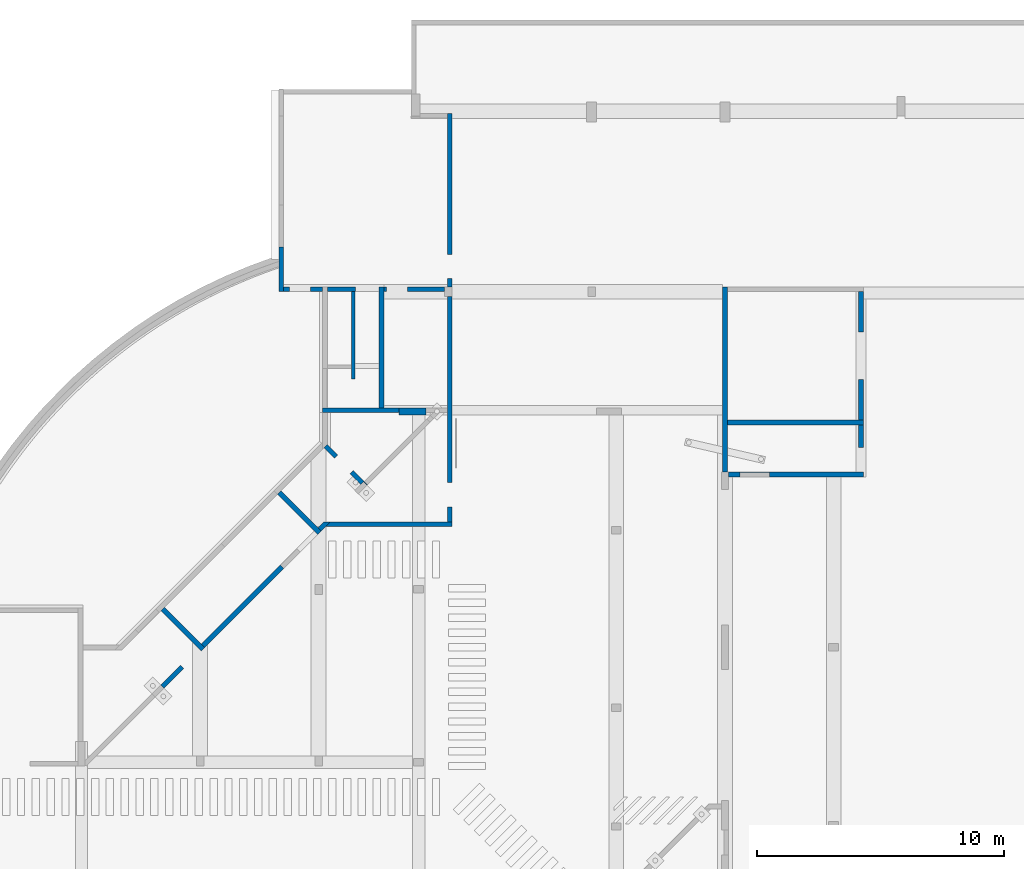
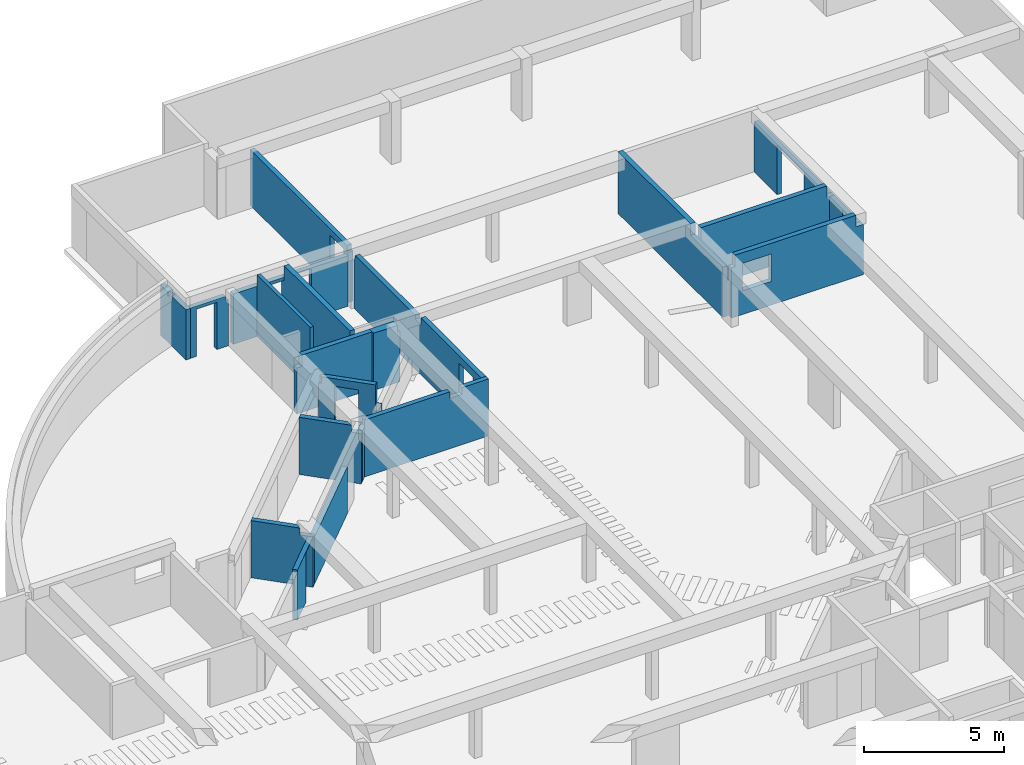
# One storey, part 11 of 12: 22 walls.
"""IFC4X3_ADD2 building model written with IfcOpenShell, lengths in millimetres."""

from ifc_helpers import new_model, si_unit, direction, frame, origin_with_axes, place, context, subcontext, project, spatial, polygons, element, save


model = new_model("IFC4X3_ADD2")

# Units and contexts
model_context = context("Model", 3, precision=1e-05, world=origin_with_axes(), true_north=direction((0.0, 1.0)))
body_context = subcontext(model_context, "Body", "Model", "MODEL_VIEW")
ifc_project = project(units=[si_unit("LENGTHUNIT", "METRE", prefix="MILLI"), si_unit("AREAUNIT", "SQUARE_METRE"), si_unit("VOLUMEUNIT", "CUBIC_METRE"), si_unit("PLANEANGLEUNIT", "RADIAN"), si_unit("TIMEUNIT", "SECOND"), si_unit("MASSUNIT", "GRAM")], contexts=[model_context])

# Site, building, storey
site_placement = place(None, origin_with_axes())
site = spatial("IfcSite", under=ifc_project, at=site_placement, Name="Site", CompositionType="ELEMENT")
building_placement = place(site_placement, origin_with_axes())
building = spatial("IfcBuilding", under=site, at=building_placement, Name="IFC Building Story")
storey_placement = place(building_placement, frame((0.0, 0.0, -5940.0), z_axis=(0.0, 0.0, 1.0), x_axis=(1.0, 0.0, 0.0)))
storey = spatial("IfcBuildingStorey", under=building, at=storey_placement, Name="K20", Elevation=-5940.0)

# Walls
wall_1_placement = place(storey_placement, frame((0.0, 0.0, 5940.0), z_axis=(0.0, 0.0, 1.0), x_axis=(1.0, 0.0, 0.0)))
element("IfcWall", 1, at=wall_1_placement, inside=storey, Name="Basic Wall:BB_XX_Wand uit beton, 200 mm", ObjectType="Basic Wall:BB_XX_Wand uit beton, 200 mm", PredefinedType="SOLIDWALL", context=body_context, shape_type="Tessellation", body=[
    polygons([(-30465.0, 43500.0, -3740.0), (-30465.0, 43500.0, -5940.0), (-30465.0, 45304.9999999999, -5940.0), (-30465.0, 45304.9999999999, -3740.0), (-30665.0, 45304.9999999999, -5940.0), (-30665.0, 43500.0, -5940.0), (-30665.0, 43500.0, -3740.0), (-30665.0, 44464.96073769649, -3740.0), (-30665.0, 44464.96073769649, -3930.0), (-30665.0, 44515.26732616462, -3930.0), (-30665.0, 44726.14031068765, -3930.0), (-30665.0, 44802.9658275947, -3930.0), (-30665.0, 44802.9658275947, -3740.0), (-30665.0, 45304.9999999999, -3740.0), (-30635.90095402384, 44812.76218617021, -3740.0), (-30606.7884824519, 44822.51857469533, -3740.0), (-30505.31416109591, 44519.0338763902, -3740.0), (-30585.20878834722, 44492.15000769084, -3740.0), (-30635.90117699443, 44812.76211127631, -3930.0), (-30585.21030616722, 44492.14949372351, -3930.0), (-30505.31416109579, 44519.03387639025, -3930.0), (-30606.78848245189, 44822.51857469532, -3930.0)], [[[1, 2, 3, 4]], [[12, 13, 14]], [[12, 14, 5]], [[5, 11, 12]], [[5, 10, 11]], [[5, 9, 10]], [[9, 5, 6]], [[9, 6, 7]], [[7, 8, 9]], [[3, 2, 6, 5]], [[18, 8, 7]], [[18, 7, 1]], [[1, 17, 18]], [[1, 4, 17]], [[4, 14, 16]], [[4, 16, 17]], [[14, 15, 16]], [[14, 13, 15]], [[10, 9, 20]], [[20, 21, 19]], [[20, 19, 11]], [[20, 11, 10]], [[19, 12, 11]], [[21, 22, 19]], [[2, 1, 7, 6]], [[22, 21, 17, 16]], [[9, 8, 18, 20]], [[18, 17, 21]], [[18, 21, 20]], [[12, 19, 15, 13]], [[22, 16, 15, 19]], [[4, 3, 5, 14]]]),
])
wall_2_placement = place(storey_placement, frame((0.0, 0.0, 5940.0), z_axis=(0.0, 0.0, 1.0), x_axis=(1.0, 0.0, 0.0)))
element("IfcWall", 2, at=wall_2_placement, inside=storey, Name="Basic Wall:BB_XX_Wand uit beton, 200 mm", ObjectType="Basic Wall:BB_XX_Wand uit beton, 200 mm", PredefinedType="SOLIDWALL", context=body_context, shape_type="Tessellation", body=[
    polygons([(-26600.0, 43700.0, -5940.0), (-26600.0, 40399.9959341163, -5940.0), (-26600.0, 40399.9959341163, -5260.0), (-26600.0, 38799.99593411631, -5259.999999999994), (-26600.0, 38799.99593411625, -3240.0), (-26600.0, 43500.00000000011, -3240.0), (-26600.0, 43500.00000000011, -3740.0), (-26600.0, 43700.0, -3740.0), (-26600.0, 43700.0, -3880.0), (-26400.0, 40399.9959341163, -5940.0), (-26400.0, 43700.0, -5940.0), (-26400.0, 43700.0, -3740.0), (-26400.00000000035, 43500.00000000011, -3740.0), (-26400.0, 43500.00000000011, -3240.0), (-26400.00000000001, 38799.99593411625, -3240.0), (-26400.0, 38799.99593411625, -3440.0), (-26400.00000000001, 38799.9959341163, -5259.999999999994), (-26400.0, 40399.9959341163, -5260.0)], [[[7, 8, 9]], [[7, 9, 3]], [[3, 4, 5]], [[3, 5, 6]], [[3, 6, 7]], [[9, 1, 2]], [[9, 2, 3]], [[13, 14, 15]], [[13, 15, 16]], [[18, 10, 11]], [[18, 11, 13]], [[18, 13, 16]], [[16, 17, 18]], [[11, 12, 13]], [[9, 8, 12]], [[12, 11, 1]], [[12, 1, 9]], [[13, 7, 6, 14]], [[7, 13, 12, 8]], [[2, 1, 11, 10]], [[5, 15, 14, 6]], [[4, 3, 18, 17]], [[16, 15, 5]], [[5, 4, 17]], [[5, 17, 16]], [[3, 2, 10, 18]]]),
])
wall_3_placement = place(storey_placement, frame((0.0, 0.0, 5940.0), z_axis=(0.0, 0.0, 1.0), x_axis=(1.0, 0.0, 0.0)))
element("IfcWall", 3, at=wall_3_placement, inside=storey, Name="Basic Wall:BB_XX_Wand uit beton, 200 mm", ObjectType="Basic Wall:BB_XX_Wand uit beton, 200 mm", PredefinedType="SOLIDWALL", context=body_context, shape_type="Tessellation", body=[
    polygons([(-26600.0, 43500.00000000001, -3740.0), (-28700.0, 43500.00000000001, -3740.0), (-28700.0, 43500.00000000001, -5940.0), (-27559.99999999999, 43500.00000000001, -5940.0), (-27559.99999999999, 43500.00000000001, -3880.0), (-26600.0, 43500.00000000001, -3880.0), (-28700.0, 43700.0, -3740.0), (-26600.0, 43700.0, -3740.0), (-26600.0, 43700.0, -3880.0), (-27559.99999999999, 43700.0, -3880.0), (-27559.99999999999, 43700.0, -5940.0), (-28700.0, 43700.0, -5940.0), (-28700.0, 43700.0, -3930.0)], [[[5, 6, 1]], [[5, 1, 2]], [[2, 3, 4]], [[2, 4, 5]], [[13, 7, 10]], [[10, 11, 12]], [[10, 12, 13]], [[7, 8, 10]], [[8, 9, 10]], [[3, 12, 11, 4]], [[2, 1, 8, 7]], [[13, 12, 3]], [[13, 3, 2]], [[2, 7, 13]], [[10, 5, 4, 11]], [[5, 10, 9, 6]], [[8, 1, 6, 9]]]),
])
wall_4_placement = place(storey_placement, frame((0.0, 0.0, 5940.0), z_axis=(0.0, 0.0, 1.0), x_axis=(1.0, 0.0, 0.0)))
element("IfcWall", 4, at=wall_4_placement, inside=storey, Name="Basic Wall:BB_XX_Wand uit beton, 200 mm", ObjectType="Basic Wall:BB_XX_Wand uit beton, 200 mm", PredefinedType="SOLIDWALL", context=body_context, shape_type="Tessellation", body=[
    polygons([(-25795.0, 38799.9959341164, -5940.0), (-28899.99999999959, 38799.99593411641, -5940.0), (-28899.99999999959, 38799.99593411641, -3930.0), (-28700.0000000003, 38799.99593411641, -3930.0), (-28700.0000000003, 38799.99593411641, -3440.0), (-25795.0, 38799.9959341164, -3440.0), (-28899.99999999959, 38599.9959341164, -5940.0), (-28699.99999999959, 38599.9959341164, -5940.0), (-25795.0, 38599.9959341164, -5940.0), (-25795.0, 38599.9959341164, -3440.0), (-28580.00000000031, 38599.9959341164, -3440.0), (-28700.0000000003, 38599.9959341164, -3440.0), (-28700.0000000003, 38599.99593411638, -3930.0), (-28899.99999999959, 38599.9959341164, -3930.0)], [[[4, 5, 6]], [[6, 1, 2]], [[6, 2, 4]], [[2, 3, 4]], [[13, 8, 11]], [[11, 12, 13]], [[8, 9, 10]], [[8, 10, 11]], [[13, 14, 7]], [[13, 7, 8]], [[8, 7, 2]], [[2, 1, 9]], [[2, 9, 8]], [[11, 10, 6]], [[11, 6, 5]], [[5, 12, 11]], [[1, 6, 10, 9]], [[2, 7, 14, 3]], [[4, 13, 12, 5]], [[13, 4, 3, 14]]]),
])
wall_5_placement = place(storey_placement, frame((0.0, 0.0, 5940.0), z_axis=(0.0, 0.0, 1.0), x_axis=(1.0, 0.0, 0.0)))
element("IfcWall", 5, at=wall_5_placement, inside=storey, Name="Basic Wall:BB_XX_Wand uit beton, 200 mm", ObjectType="Basic Wall:BB_XX_Wand uit beton, 200 mm", PredefinedType="SOLIDWALL", context=body_context, shape_type="Tessellation", body=[
    polygons([(-30719.00667860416, 35293.98755288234, -5940.0), (-29092.66108187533, 33667.6419561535, -5940.0), (-29092.66108187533, 33667.6419561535, -3740.0), (-29349.99999999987, 33924.98087427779, -3740.0), (-29349.99999999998, 33924.98087427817, -3440.0), (-30719.00667860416, 35293.98755288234, -3440.0), (-30719.00667860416, 35293.98755288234, -3930.0), (-28951.23972563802, 33809.06331239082, -5940.0), (-30577.58532236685, 35435.40890911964, -5940.0), (-30577.58532236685, 35435.40890911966, -3440.0), (-29350.0, 34207.8235867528, -3440.0), (-29350.0, 34207.8235867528, -3740.0), (-28951.23972563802, 33809.06331239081, -3740.0), (-29349.99999999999, 34003.34636955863, -3740.0)], [[[4, 5, 6]], [[4, 6, 7]], [[4, 7, 1]], [[4, 1, 2]], [[2, 3, 4]], [[12, 13, 8]], [[8, 9, 10]], [[8, 10, 12]], [[10, 11, 12]], [[2, 1, 9, 8]], [[2, 8, 13, 3]], [[10, 6, 5, 11]], [[7, 6, 10]], [[10, 9, 1]], [[10, 1, 7]], [[14, 12, 11]], [[14, 11, 5]], [[5, 4, 14]], [[14, 4, 3]], [[14, 3, 13]], [[13, 12, 14]]]),
])
wall_6_placement = place(storey_placement, frame((0.0, 0.0, 5940.0), z_axis=(0.0, 0.0, 1.0), x_axis=(1.0, 0.0, 0.0)))
element("IfcWall", 6, at=wall_6_placement, inside=storey, Name="Basic Wall:BB_XX_Wand uit beton, 200 mm", ObjectType="Basic Wall:BB_XX_Wand uit beton, 200 mm", PredefinedType="SOLIDWALL", context=body_context, shape_type="Tessellation", body=[
    polygons([(-35435.40890911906, 30577.58532236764, -5940.0), (-33809.06331239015, 28951.23972563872, -5940.0), (-33809.06331239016, 28951.23972563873, -3740.0), (-34150.00000000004, 29292.17641324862, -3740.0), (-34150.00000000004, 29292.17641324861, -3440.0), (-35435.40890911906, 30577.58532236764, -3440.0), (-33667.64195615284, 29092.66108187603, -5940.0), (-35293.98755288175, 30719.00667860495, -5940.0), (-35293.98755288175, 30719.00667860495, -3440.0), (-34064.98087427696, 29490.00000000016, -3440.0), (-34064.98087427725, 29490.00000000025, -3740.0), (-33809.06331239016, 29234.08243811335, -3740.0), (-33667.64195615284, 29092.66108187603, -3740.0), (-34150.00000000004, 29490.00000000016, -3440.0), (-34150.00000000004, 29490.00000000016, -3740.0)], [[[4, 5, 6]], [[4, 6, 1]], [[4, 1, 2]], [[2, 3, 4]], [[12, 13, 7]], [[7, 11, 12]], [[7, 8, 9]], [[7, 9, 11]], [[9, 10, 11]], [[2, 1, 8, 7]], [[2, 7, 13, 3]], [[14, 10, 9]], [[9, 6, 5]], [[9, 5, 14]], [[1, 6, 9, 8]], [[15, 11, 10, 14]], [[15, 14, 5, 4]], [[12, 11, 15]], [[12, 15, 4]], [[12, 4, 3]], [[3, 13, 12]]]),
])
wall_7_placement = place(storey_placement, frame((0.0, 0.0, 5940.0), z_axis=(0.0, 0.0, 1.0), x_axis=(1.0, 0.0, 0.0)))
element("IfcWall", 7, at=wall_7_placement, inside=storey, Name="Basic Wall:BB_XX_Wand uit metselwerk, 200 mm", ObjectType="Basic Wall:BB_XX_Wand uit metselwerk, 200 mm", PredefinedType="SOLIDWALL", context=body_context, shape_type="Tessellation", body=[
    polygons([(-33667.64195615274, 29092.66108187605, -5940.0), (-30461.61981025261, 32298.68322777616, -5940.0), (-30461.61981025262, 32298.68322777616, -3886.0), (-30461.61981025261, 32298.68322777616, -3880.0), (-33667.64195615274, 29092.66108187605, -3880.0), (-30603.04116648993, 32440.10458401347, -5940.0), (-33809.06331239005, 29234.08243811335, -5940.0), (-33809.06331239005, 29234.08243811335, -3880.0), (-30603.04116648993, 32440.10458401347, -3880.0), (-30603.04116648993, 32440.10458401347, -3886.0)], [[[3, 4, 5]], [[5, 1, 2]], [[5, 2, 3]], [[10, 6, 7]], [[10, 7, 8]], [[8, 9, 10]], [[2, 1, 7, 6]], [[10, 9, 4]], [[10, 4, 3]], [[3, 2, 6]], [[3, 6, 10]], [[5, 4, 9, 8]], [[1, 5, 8, 7]]]),
])
wall_8_placement = place(storey_placement, frame((0.0, 0.0, 5940.0), z_axis=(0.0, 0.0, 1.0), x_axis=(1.0, 0.0, 0.0)))
element("IfcWall", 8, at=wall_8_placement, inside=storey, Name="Basic Wall:BB_XX_Wand uit beton, 200 mm", ObjectType="Basic Wall:BB_XX_Wand uit beton, 200 mm", PredefinedType="SOLIDWALL", context=body_context, shape_type="Tessellation", body=[
    polygons([(-7000.000000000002, 36200.0, -5940.0), (-12450.00000000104, 36200.0, -5940.0), (-12450.00000000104, 36200.0, -3740.0), (-12300.00000000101, 36199.99999999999, -3740.0), (-12300.00000000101, 36199.99999999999, -3240.0), (-7299.999999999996, 36200.0, -3240.0), (-7299.999999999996, 36200.0, -3740.0), (-7000.000000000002, 36200.0, -3740.0), (-12000.00000000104, 36199.99999999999, -3705.0), (-12000.00000000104, 36199.99999999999, -4905.0), (-10800.00000000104, 36200.0, -4905.00000000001), (-10800.00000000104, 36200.0, -3705.00000000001), (-7000.0, 36000.0, -5940.0), (-7000.000000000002, 36000.0, -3740.0), (-7299.999999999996, 36000.0, -3740.0), (-7299.999999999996, 36000.0, -3240.0), (-12300.00000000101, 36000.0, -3240.0), (-12300.00000000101, 36000.0, -3740.0), (-12450.00000000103, 36000.0, -3740.0), (-12450.00000000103, 36000.0, -5940.0), (-12000.00000000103, 36000.0, -3705.0), (-10800.00000000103, 36000.00000000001, -3705.00000000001), (-10800.00000000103, 36000.00000000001, -4905.00000000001), (-12000.00000000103, 36000.0, -4905.0)], [[[7, 8, 1]], [[9, 4, 5]], [[5, 12, 9]], [[12, 5, 6]], [[6, 7, 11]], [[6, 11, 12]], [[7, 1, 2]], [[7, 2, 11]], [[2, 10, 11]], [[2, 4, 9]], [[2, 9, 10]], [[2, 3, 4]], [[18, 19, 20]], [[22, 15, 16]], [[22, 16, 17]], [[17, 21, 22]], [[17, 18, 21]], [[24, 21, 18]], [[24, 18, 20]], [[20, 23, 24]], [[23, 20, 13]], [[23, 13, 15]], [[15, 22, 23]], [[13, 14, 15]], [[3, 2, 20, 19]], [[2, 1, 13, 20]], [[6, 5, 17, 16]], [[1, 8, 14, 13]], [[4, 3, 19, 18]], [[5, 4, 18, 17]], [[7, 6, 16, 15]], [[8, 7, 15, 14]], [[10, 9, 21, 24]], [[11, 10, 24, 23]], [[12, 11, 23, 22]], [[9, 12, 22, 21]]]),
])
wall_9_placement = place(storey_placement, frame((0.0, 0.0, 5940.0), z_axis=(0.0, 0.0, 1.0), x_axis=(1.0, 0.0, 0.0)))
element("IfcWall", 9, at=wall_9_placement, inside=storey, Name="Basic Wall:BB_XX_Wand uit beton, 200 mm", ObjectType="Basic Wall:BB_XX_Wand uit beton, 200 mm", PredefinedType="SOLIDWALL", context=body_context, shape_type="Tessellation", body=[
    polygons([(-12500.004065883, 36200.0, -5940.0), (-12500.004065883, 38100.00000000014, -5940.0), (-12500.004065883, 38300.00000000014, -5940.0), (-12500.004065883, 43499.9999999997, -5940.0), (-12500.004065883, 43699.9999999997, -5940.0), (-12500.004065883, 43699.9999999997, -3240.0), (-12500.004065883, 43499.9999999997, -3240.0), (-12500.004065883, 38500.00000000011, -3240.0), (-12500.004065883, 38500.00000000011, -3740.0), (-12500.004065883, 36200.0, -3740.0), (-12700.004065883, 36200.0, -5940.0), (-12700.004065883, 36200.0, -3740.0), (-12700.004065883, 38500.00000000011, -3740.0), (-12700.004065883, 38500.00000000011, -3240.0), (-12700.004065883, 43699.9999999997, -3240.0), (-12700.004065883, 43699.9999999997, -5940.0)], [[[4, 5, 6]], [[4, 6, 7]], [[9, 3, 4]], [[9, 4, 7]], [[7, 8, 9]], [[9, 2, 3]], [[9, 10, 1]], [[9, 1, 2]], [[13, 14, 15]], [[13, 15, 16]], [[13, 16, 11]], [[11, 12, 13]], [[6, 5, 16, 15]], [[1, 10, 12, 11]], [[2, 1, 11]], [[11, 3, 2]], [[3, 11, 16]], [[16, 4, 3]], [[16, 5, 4]], [[7, 6, 15]], [[15, 14, 8]], [[15, 8, 7]], [[9, 8, 14, 13]], [[10, 9, 13, 12]]]),
])
wall_10_placement = place(storey_placement, frame((0.0, 0.0, 5940.0), z_axis=(0.0, 0.0, 1.0), x_axis=(1.0, 0.0, 0.0)))
element("IfcWall", 10, at=wall_10_placement, inside=storey, Name="Basic Wall:BB_XX_Wand uit beton, 200 mm", ObjectType="Basic Wall:BB_XX_Wand uit beton, 200 mm", PredefinedType="SOLIDWALL", context=body_context, shape_type="Tessellation", body=[
    polygons([(-12500.004065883, 38100.0, -5940.0), (-6994.99999999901, 38100.0, -5940.0), (-6994.99999999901, 38100.0, -3740.0), (-7299.999999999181, 38100.0, -3740.0), (-7299.999999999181, 38100.0, -3240.0), (-12500.004065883, 38100.0, -3240.0), (-6994.99999999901, 38300.0, -5940.0), (-12500.004065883, 38299.99999999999, -5940.0), (-12500.004065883, 38299.99999999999, -3240.0), (-7299.999999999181, 38300.0, -3240.0), (-7299.999999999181, 38300.0, -3740.0), (-6994.99999999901, 38300.0, -3740.0)], [[[4, 5, 6]], [[6, 1, 2]], [[6, 2, 4]], [[2, 3, 4]], [[11, 12, 7]], [[11, 7, 8]], [[11, 8, 9]], [[9, 10, 11]], [[2, 1, 8, 7]], [[2, 7, 12, 3]], [[9, 6, 5, 10]], [[1, 6, 9, 8]], [[11, 4, 3, 12]], [[4, 11, 10, 5]]]),
])
wall_11_placement = place(storey_placement, frame((0.0, 0.0, 5940.0), z_axis=(0.0, 0.0, 1.0), x_axis=(1.0, 0.0, 0.0)))
element("IfcWall", 11, at=wall_11_placement, inside=storey, Name="Basic Wall:BB_XX_Wand uit beton, 300 mm", ObjectType="Basic Wall:BB_XX_Wand uit beton, 300 mm", PredefinedType="SOLIDWALL", context=body_context, shape_type="Tessellation", body=[
    polygons([(-25795.0, 38499.9959341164, -5940.0), (-24704.99999999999, 38499.9959341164, -5940.0), (-24704.99999999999, 38499.9959341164, -3740.0), (-24799.99999999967, 38499.99728941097, -3740.0), (-24799.99999999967, 38499.9959341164, -3440.0), (-25795.0, 38499.9959341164, -3440.0), (-24704.99999999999, 38799.9959341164, -5940.0), (-25795.0, 38799.9959341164, -5940.0), (-25795.0, 38799.9959341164, -3740.0), (-25795.0, 38799.9959341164, -3440.0), (-24799.99999999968, 38799.9959341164, -3440.0), (-24799.99999999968, 38799.99593411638, -3740.0), (-24704.99999999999, 38799.9959341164, -3740.0)], [[[4, 5, 6]], [[6, 1, 2]], [[6, 2, 4]], [[2, 3, 4]], [[9, 10, 11]], [[9, 11, 12]], [[12, 13, 7]], [[7, 8, 9]], [[7, 9, 12]], [[2, 1, 8, 7]], [[2, 7, 13, 3]], [[10, 6, 5, 11]], [[9, 8, 1]], [[9, 1, 6]], [[6, 10, 9]], [[12, 4, 3, 13]], [[4, 12, 11, 5]]]),
])
wall_12_placement = place(storey_placement, frame((0.0, 0.0, 5940.0), z_axis=(0.0, 0.0, 1.0), x_axis=(1.0, 0.0, 0.0)))
element("IfcWall", 12, at=wall_12_placement, inside=storey, Name="Basic Wall:BB_XX_Wand uit metselwerk, 140 mm", ObjectType="Basic Wall:BB_XX_Wand uit metselwerk, 140 mm", PredefinedType="SOLIDWALL", context=body_context, shape_type="Tessellation", body=[
    polygons([(-27580.0, 39699.9959341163, -4545.00000000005), (-27580.0, 40399.99593411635, -5070.000000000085), (-27580.0, 40399.99593411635, -5940.0), (-27580.0, 43500.00000000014, -5940.0), (-27580.0, 43500.00000000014, -3240.0), (-27580.0, 39699.9959341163, -3240.0), (-27720.0, 39699.9959341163, -4545.00000000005), (-27720.0, 39699.9959341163, -3240.0), (-27720.0, 43500.00000000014, -3240.0), (-27720.0, 43500.00000000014, -5940.0), (-27720.0, 40539.99593411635, -5940.0), (-27720.0, 40399.99593411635, -5940.0), (-27720.0, 40399.99593411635, -5070.000000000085)], [[[2, 3, 4]], [[4, 5, 6]], [[4, 6, 1]], [[4, 1, 2]], [[11, 12, 13]], [[13, 7, 8]], [[13, 8, 9]], [[13, 9, 10]], [[10, 11, 13]], [[11, 10, 4]], [[11, 4, 3]], [[3, 12, 11]], [[5, 4, 10, 9]], [[6, 5, 9, 8]], [[1, 6, 8, 7]], [[2, 1, 7, 13]], [[3, 2, 13, 12]]]),
])
wall_13_placement = place(storey_placement, frame((0.0, 0.0, 5940.0), z_axis=(0.0, 0.0, 1.0), x_axis=(1.0, 0.0, 0.0)))
element("IfcWall", 13, at=wall_13_placement, inside=storey, Name="Basic Wall:BB_03.09.24#05_Wand uit metselwerk_EI60, 190 mm", ObjectType="Basic Wall:BB_03.09.24#05_Wand uit metselwerk_EI60, 190 mm", PredefinedType="SOLIDWALL", context=body_context, shape_type="Tessellation", body=[
    polygons([(-23840.0, 50720.0, -3500.0), (-23840.0, 50720.0, -3740.0), (-23840.0, 50720.0, -5940.0), (-23840.0, 50530.0, -5940.0), (-23840.0, 45014.99896815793, -5940.0), (-23840.0, 45014.99896815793, -3780.0), (-23840.0, 44024.99896815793, -3780.0), (-23840.0, 44024.99896815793, -5940.0), (-23840.0, 43700.0, -5940.0), (-23840.0, 43700.0, -3740.0), (-23840.0, 43800.00000000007, -3740.0), (-23840.0, 43800.00000000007, -3500.0), (-23650.0, 50720.0, -5940.0), (-23650.0, 50720.0, -3500.0), (-23650.0, 43800.00000000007, -3500.0), (-23650.0, 43800.00000000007, -3740.0), (-23650.0, 43700.0, -3740.0), (-23650.0, 43700.0, -5940.0), (-23650.0, 44024.99896815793, -5940.0), (-23650.0, 44024.99896815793, -3780.0), (-23650.0, 45014.99896815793, -3780.0), (-23650.0, 45014.99896815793, -5940.0)], [[[7, 8, 9]], [[7, 9, 10]], [[7, 10, 11]], [[11, 6, 7]], [[6, 11, 2]], [[2, 4, 5]], [[2, 5, 6]], [[2, 3, 4]], [[11, 12, 1]], [[11, 1, 2]], [[16, 17, 18]], [[16, 18, 19]], [[16, 19, 20]], [[21, 22, 13]], [[21, 13, 14]], [[14, 15, 21]], [[15, 16, 20]], [[15, 20, 21]], [[4, 3, 13]], [[13, 22, 5]], [[13, 5, 4]], [[9, 18, 17, 10]], [[14, 1, 12, 15]], [[2, 1, 14]], [[14, 13, 3]], [[14, 3, 2]], [[6, 21, 20, 7]], [[7, 20, 19, 8]], [[21, 6, 5, 22]], [[16, 11, 10, 17]], [[11, 16, 15, 12]], [[18, 9, 8, 19]]]),
])
wall_14_placement = place(storey_placement, frame((0.0, 0.0, 5940.0), z_axis=(0.0, 0.0, 1.0), x_axis=(1.0, 0.0, 0.0)))
element("IfcWall", 14, at=wall_14_placement, inside=storey, Name="Basic Wall:BB_03.09.24#05_Wand uit metselwerk_EI60, 190 mm", ObjectType="Basic Wall:BB_03.09.24#05_Wand uit metselwerk_EI60, 190 mm", PredefinedType="SOLIDWALL", context=body_context, shape_type="Tessellation", body=[
    polygons([(-23950.0, 43509.99999999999, -5940.0), (-23950.0, 43509.99999999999, -3740.0), (-26400.0, 43509.99999999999, -3740.0), (-26400.0, 43509.99999999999, -5940.0), (-26300.0, 43509.99999999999, -5940.0), (-26300.0, 43509.99999999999, -3780.0), (-25460.0, 43510.00000000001, -3780.0), (-25460.0, 43510.00000000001, -5940.0), (-23950.0, 43699.99999999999, -3740.0), (-23950.0, 43699.99999999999, -5940.0), (-25460.0, 43700.00000000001, -5940.0), (-25460.0, 43700.00000000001, -3780.0), (-26300.0, 43699.99999999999, -3780.0), (-26300.0, 43699.99999999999, -5940.0), (-26400.0, 43699.99999999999, -5940.0), (-26400.0, 43699.99999999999, -3740.0)], [[[7, 8, 1]], [[7, 1, 2]], [[2, 3, 7]], [[3, 6, 7]], [[3, 4, 5]], [[3, 5, 6]], [[13, 14, 15]], [[13, 15, 16]], [[16, 12, 13]], [[12, 16, 9]], [[9, 10, 11]], [[9, 11, 12]], [[4, 15, 14, 5]], [[2, 1, 10, 9]], [[3, 2, 9, 16]], [[4, 3, 16, 15]], [[12, 7, 6, 13]], [[13, 6, 5, 14]], [[7, 12, 11, 8]], [[10, 1, 8, 11]]]),
])
wall_15_placement = place(storey_placement, frame((0.0, 0.0, 5940.0), z_axis=(0.0, 0.0, 1.0), x_axis=(1.0, 0.0, 0.0)))
element("IfcWall", 15, at=wall_15_placement, inside=storey, Name="Basic Wall:BB_03.09.24#05_Wand uit metselwerk_EI60, 190 mm", ObjectType="Basic Wall:BB_03.09.24#05_Wand uit metselwerk_EI60, 190 mm", PredefinedType="SOLIDWALL", context=body_context, shape_type="Tessellation", body=[
    polygons([(-23840.0, 34179.9959341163, -3450.0), (-23840.0, 38500.0, -3450.0), (-23840.0, 38500.0, -3740.0), (-23840.0, 38609.9959341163, -3740.0), (-23840.0, 38799.9959341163, -3740.0), (-23840.0, 38900.0, -3740.0), (-23840.0, 38900.0, -3580.0), (-23840.0, 43200.00000000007, -3580.0), (-23840.0, 43200.00000000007, -3740.0), (-23840.0, 43300.0, -3740.0), (-23840.0, 43300.0, -5940.0), (-23840.0, 38799.9959341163, -5940.0), (-23840.0, 38609.9959341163, -5940.0), (-23840.0, 35769.99593411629, -5940.0), (-23840.0, 35769.99593411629, -3780.0), (-23840.0, 34779.99593411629, -3780.0), (-23840.0, 34779.9959341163, -5940.0), (-23840.0, 34179.9959341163, -5940.0), (-23650.0, 38500.0, -3450.0), (-23650.0, 34179.9959341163, -3450.0), (-23650.0, 34179.9959341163, -5940.0), (-23650.0, 34779.99593411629, -5940.0), (-23650.0, 34779.99593411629, -3780.0), (-23650.0, 35769.99593411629, -3780.0), (-23650.0, 35769.99593411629, -5940.0), (-23650.0, 43300.0, -5940.0), (-23650.0, 43300.0, -3740.0), (-23650.0, 43200.00000000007, -3740.0), (-23650.0, 43200.00000000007, -3580.0), (-23650.0, 38900.0, -3580.0), (-23650.0, 38900.0, -3740.0), (-23650.0, 38500.0, -3740.0)], [[[9, 10, 11]], [[9, 11, 6]], [[6, 7, 8]], [[6, 8, 9]], [[11, 12, 6]], [[12, 5, 6]], [[12, 13, 4]], [[12, 4, 5]], [[13, 3, 4]], [[16, 17, 18]], [[16, 18, 1]], [[1, 15, 16]], [[3, 13, 14]], [[3, 14, 15]], [[15, 1, 2]], [[15, 2, 3]], [[32, 19, 24]], [[24, 31, 32]], [[31, 24, 28]], [[28, 29, 30]], [[28, 30, 31]], [[24, 25, 26]], [[24, 26, 28]], [[26, 27, 28]], [[19, 20, 24]], [[20, 23, 24]], [[20, 21, 22]], [[20, 22, 23]], [[1, 18, 21, 20]], [[12, 11, 26]], [[26, 13, 12]], [[26, 25, 13]], [[25, 14, 13]], [[2, 1, 20, 19]], [[26, 11, 10, 27]], [[3, 2, 19, 32]], [[4, 3, 32]], [[32, 31, 5]], [[32, 5, 4]], [[31, 6, 5]], [[7, 6, 31, 30]], [[7, 30, 29, 8]], [[15, 24, 23, 16]], [[16, 23, 22, 17]], [[24, 15, 14, 25]], [[28, 9, 8, 29]], [[9, 28, 27, 10]], [[21, 18, 17, 22]]]),
])
wall_16_placement = place(storey_placement, frame((0.0, 0.0, 5940.0), z_axis=(0.0, 0.0, 1.0), x_axis=(1.0, 0.0, 0.0)))
element("IfcWall", 16, at=wall_16_placement, inside=storey, Name="Basic Wall:BB_03.09.24#05_Wand uit metselwerk_EI60, 190 mm", ObjectType="Basic Wall:BB_03.09.24#05_Wand uit metselwerk_EI60, 190 mm", PredefinedType="SOLIDWALL", context=body_context, shape_type="Tessellation", body=[
    polygons([(-23650.0, 34179.9959341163, -5940.0), (-23840.0, 34179.9959341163, -5940.0), (-28580.30710391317, 34179.9959341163, -5940.0), (-28580.30710391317, 34179.9959341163, -3450.0), (-25250.00000000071, 34179.9959341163, -3450.0), (-25250.00000000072, 34179.9959341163, -3740.0), (-24750.00000000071, 34179.9959341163, -3740.0), (-24750.00000000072, 34179.9959341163, -3450.0), (-23840.0, 34179.9959341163, -3450.0), (-23650.0, 34179.9959341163, -3450.0), (-28770.30710391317, 33989.9959341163, -5940.0), (-23650.0, 33989.9959341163, -5940.0), (-23650.0, 33989.9959341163, -3450.0), (-24750.00000000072, 33989.9959341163, -3450.0), (-24750.00000000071, 33989.9959341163, -3740.0), (-25250.00000000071, 33989.9959341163, -3740.0), (-25250.00000000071, 33989.9959341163, -3450.0), (-28750.00000000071, 33989.9959341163, -3450.0), (-28750.00000000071, 33989.9959341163, -3740.0), (-28770.30710391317, 33989.9959341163, -3740.0), (-28756.95666847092, 34003.34636955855, -3450.0), (-28750.00000000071, 34003.34636955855, -3450.0), (-28756.95666847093, 34003.34636955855, -3740.0), (-28750.00000000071, 34003.34636955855, -3740.0)], [[[7, 8, 9]], [[7, 9, 2]], [[2, 6, 7]], [[2, 3, 4]], [[2, 4, 6]], [[4, 5, 6]], [[9, 10, 1]], [[9, 1, 2]], [[19, 20, 11]], [[19, 11, 16]], [[16, 17, 18]], [[16, 18, 19]], [[11, 15, 16]], [[11, 12, 13]], [[11, 13, 15]], [[13, 14, 15]], [[2, 1, 12]], [[12, 11, 3]], [[12, 3, 2]], [[22, 18, 17]], [[22, 17, 5]], [[22, 5, 4]], [[4, 21, 22]], [[23, 21, 4]], [[4, 3, 11]], [[4, 11, 23]], [[11, 20, 23]], [[1, 10, 13, 12]], [[23, 24, 22, 21]], [[24, 23, 20, 19]], [[22, 24, 19, 18]], [[16, 6, 5, 17]], [[6, 16, 15, 7]], [[7, 15, 14, 8]], [[9, 8, 14]], [[9, 14, 13]], [[13, 10, 9]]]),
])
wall_17_placement = place(storey_placement, frame((0.0, 0.0, 5940.0), z_axis=(0.0, 0.0, 1.0), x_axis=(1.0, 0.0, 0.0)))
element("IfcWall", 17, at=wall_17_placement, inside=storey, Name="Basic Wall:BB_03.09.24#05_Wand uit metselwerk_EI60, 190 mm", ObjectType="Basic Wall:BB_03.09.24#05_Wand uit metselwerk_EI60, 190 mm", PredefinedType="SOLIDWALL", context=body_context, shape_type="Tessellation", body=[
    polygons([(-28849.00768076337, 34179.99593411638, -5940.0), (-29085.59001406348, 33943.41360081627, -5940.0), (-29085.59001406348, 33943.41360081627, -3740.0), (-28849.00768076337, 34179.99593411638, -3740.0), (-28951.23972563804, 33809.06331239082, -5940.0), (-28770.30710391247, 33989.99593411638, -5940.0), (-28580.30710391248, 34179.99593411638, -5940.0), (-28580.30710391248, 34179.99593411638, -3450.0), (-28580.30710391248, 34179.99593411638, -3440.0), (-28750.00000000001, 34010.30303802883, -3440.0), (-28750.00000000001, 34010.30303802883, -3740.0), (-28756.95666847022, 34003.34636955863, -3740.0), (-28770.30710391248, 33989.99593411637, -3740.0), (-28951.23972563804, 33809.06331239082, -3740.0), (-28750.00000000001, 34179.99593411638, -3440.0), (-28750.00000000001, 34179.99593411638, -3740.0)], [[[1, 2, 3, 4]], [[8, 9, 10]], [[12, 13, 6]], [[6, 11, 12]], [[11, 6, 7]], [[11, 7, 8]], [[8, 10, 11]], [[13, 14, 5]], [[13, 5, 6]], [[6, 5, 2]], [[6, 2, 1]], [[1, 7, 6]], [[2, 5, 14, 3]], [[10, 9, 15]], [[16, 15, 8]], [[16, 8, 7]], [[16, 7, 1]], [[1, 4, 16]], [[15, 9, 8]], [[12, 11, 16]], [[12, 16, 4]], [[4, 13, 12]], [[4, 3, 14]], [[4, 14, 13]], [[16, 11, 10, 15]]]),
])
wall_18_placement = place(storey_placement, frame((0.0, 0.0, 5940.0), z_axis=(0.0, 0.0, 1.0), x_axis=(1.0, 0.0, 0.0)))
element("IfcWall", 18, at=wall_18_placement, inside=storey, Name="Basic Wall:BB_03.09.24#05_Wand uit metselwerk_EI60, 190 mm", ObjectType="Basic Wall:BB_03.09.24#05_Wand uit metselwerk_EI60, 190 mm", PredefinedType="SOLIDWALL", context=body_context, shape_type="Tessellation", body=[
    polygons([(-27780.76118445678, 36125.05483909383, -5940.0), (-27208.00469170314, 35552.29834634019, -5940.0), (-27208.00469170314, 35552.29834634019, -4940.0), (-27349.42604794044, 35693.7197025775, -4940.0), (-27349.42604794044, 35693.7197025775, -4340.0), (-27342.33615845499, 35686.62981309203, -4340.0), (-27342.33615845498, 35686.62981309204, -3450.0), (-28749.99999999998, 37094.29365463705, -3450.0), (-28749.99999999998, 37094.29365463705, -3740.0), (-28834.35028842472, 37178.64394306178, -3740.0), (-28834.35028842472, 37178.64394306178, -5940.0), (-28410.0862197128, 36754.37987434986, -5940.0), (-28410.0862197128, 36754.37987434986, -3780.0), (-27780.76118445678, 36125.05483909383, -3780.0), (-27073.65440327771, 35686.64863476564, -5940.0), (-27646.41089603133, 36259.40512751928, -5940.0), (-27646.41089603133, 36259.40512751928, -3780.0), (-28275.73593128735, 36888.7301627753, -3780.0), (-28275.73593128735, 36888.7301627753, -5940.0), (-28699.99999999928, 37312.99423148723, -5940.0), (-28699.99999999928, 37312.99423148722, -3930.0), (-28587.00170262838, 37199.99593411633, -3930.0), (-28587.00170262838, 37199.99593411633, -3450.0), (-27207.98587002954, 35820.98010151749, -3450.0), (-27207.98587002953, 35820.98010151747, -4340.0), (-27073.65440327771, 35686.64863476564, -4340.0), (-27073.6544032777, 35686.64863476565, -4940.0), (-28749.99999999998, 37199.99593411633, -3450.0), (-28812.99829737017, 37199.99593411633, -3740.0), (-28812.99829737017, 37199.99593411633, -3930.0), (-28786.86291500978, 37226.13131647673, -3930.0), (-28749.99999999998, 37199.99593411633, -3740.0), (-27232.97024736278, 35810.17550315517, -4340.0), (-27225.88035787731, 35803.0856136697, -4340.0), (-27091.54889112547, 35668.75414691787, -4940.0), (-27232.97024736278, 35810.17550315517, -4940.0), (-27091.54889112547, 35668.75414691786, -4340.0)], [[[5, 6, 7]], [[9, 10, 11]], [[11, 12, 13]], [[11, 13, 9]], [[5, 7, 14]], [[14, 1, 4]], [[14, 4, 5]], [[7, 8, 13]], [[7, 13, 14]], [[8, 9, 13]], [[1, 2, 4]], [[2, 3, 4]], [[22, 23, 18]], [[22, 18, 19]], [[22, 19, 20]], [[20, 21, 22]], [[23, 24, 17]], [[23, 17, 18]], [[27, 15, 25]], [[25, 26, 27]], [[25, 15, 16]], [[25, 16, 17]], [[17, 24, 25]], [[11, 20, 19, 12]], [[23, 28, 8]], [[23, 8, 7]], [[23, 7, 24]], [[31, 21, 20]], [[31, 20, 11]], [[11, 30, 31]], [[11, 10, 30]], [[10, 29, 30]], [[17, 14, 13, 18]], [[14, 17, 16, 1]], [[18, 13, 12, 19]], [[32, 28, 23]], [[32, 23, 22]], [[22, 30, 32]], [[30, 29, 32]], [[30, 22, 21, 31]], [[9, 32, 29, 10]], [[32, 9, 8, 28]], [[5, 33, 34, 6]], [[35, 36, 4, 3]], [[34, 33, 36]], [[36, 35, 37]], [[36, 37, 34]], [[36, 33, 5, 4]], [[27, 26, 37]], [[27, 37, 35]], [[35, 3, 2]], [[35, 2, 15]], [[15, 27, 35]], [[25, 34, 37, 26]], [[34, 25, 24]], [[24, 7, 6]], [[24, 6, 34]], [[2, 1, 16, 15]]]),
])
wall_19_placement = place(storey_placement, frame((0.0, 0.0, 5940.0), z_axis=(0.0, 0.0, 1.0), x_axis=(1.0, 0.0, 0.0)))
element("IfcWall", 19, at=wall_19_placement, inside=storey, Name="Basic Wall:BB_03.09.24#05_Wand uit metselwerk_EI60, 190 mm", ObjectType="Basic Wall:BB_03.09.24#05_Wand uit metselwerk_EI60, 190 mm", PredefinedType="SOLIDWALL", context=body_context, shape_type="Tessellation", body=[
    polygons([(-7185.0, 38300.00000000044, -5940.0), (-7185.0, 38300.00000000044, -3740.0), (-7185.0, 43500.0, -3740.0), (-7185.0, 43500.0, -5940.0), (-7185.0, 41860.00000000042, -5940.0), (-7185.0, 41860.00000000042, -3780.0), (-7184.999999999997, 39940.00000000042, -3780.0), (-7184.999999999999, 39940.00000000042, -5940.0), (-6995.0, 38300.00000000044, -3740.0), (-6995.0, 38300.00000000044, -5940.0), (-6994.999999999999, 39940.00000000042, -5940.0), (-6994.999999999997, 39940.00000000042, -3780.0), (-6995.0, 41860.00000000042, -3780.0), (-6995.0, 41860.00000000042, -5940.0), (-6995.0, 43500.0, -5940.0), (-6995.0, 43500.0, -3740.0)], [[[7, 8, 1]], [[7, 1, 2]], [[2, 6, 7]], [[2, 3, 6]], [[3, 4, 5]], [[3, 5, 6]], [[13, 14, 15]], [[13, 15, 16]], [[16, 12, 13]], [[16, 9, 12]], [[9, 10, 11]], [[9, 11, 12]], [[4, 15, 14, 5]], [[2, 1, 10, 9]], [[3, 2, 9, 16]], [[4, 3, 16, 15]], [[6, 13, 12, 7]], [[7, 12, 11, 8]], [[13, 6, 5, 14]], [[10, 1, 8, 11]]]),
])
wall_20_placement = place(storey_placement, frame((0.0, 0.0, 5940.0), z_axis=(0.0, 0.0, 1.0), x_axis=(1.0, 0.0, 0.0)))
element("IfcWall", 20, at=wall_20_placement, inside=storey, Name="Basic Wall:BB_03.09.24#05_Wand uit metselwerk_EI60, 190 mm", ObjectType="Basic Wall:BB_03.09.24#05_Wand uit metselwerk_EI60, 190 mm", PredefinedType="SOLIDWALL", context=body_context, shape_type="Tessellation", body=[
    polygons([(-7185.0, 36199.99999999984, -3740.0), (-7185.0, 38100.0, -3740.0), (-7185.0, 38100.0, -5940.0), (-7185.0, 37189.99999999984, -5940.0), (-7185.000000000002, 37189.99999999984, -3780.0), (-7185.0, 36199.99999999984, -3780.0), (-6995.0, 38100.0, -3740.0), (-6995.0, 36199.99999999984, -3740.0), (-6995.0, 36199.99999999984, -3780.0), (-6995.000000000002, 37189.99999999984, -3780.0), (-6995.0, 37189.99999999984, -5940.0), (-6995.0, 38100.0, -5940.0)], [[[5, 6, 1]], [[1, 2, 5]], [[2, 3, 4]], [[2, 4, 5]], [[10, 11, 12]], [[10, 12, 7]], [[10, 7, 8]], [[8, 9, 10]], [[3, 12, 11, 4]], [[8, 1, 6, 9]], [[2, 1, 8, 7]], [[3, 2, 7, 12]], [[5, 10, 9, 6]], [[10, 5, 4, 11]]]),
])
wall_21_placement = place(storey_placement, frame((0.0, 0.0, 5940.0), z_axis=(0.0, 0.0, 1.0), x_axis=(1.0, 0.0, 0.0)))
element("IfcWall", 21, at=wall_21_placement, inside=storey, Name="Basic Wall:BB_03.09.24#05_Wand uit metselwerk_EI60, 190 mm", ObjectType="Basic Wall:BB_03.09.24#05_Wand uit metselwerk_EI60, 190 mm", PredefinedType="SOLIDWALL", context=body_context, shape_type="Tessellation", body=[
    polygons([(-28899.99999999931, 43509.99999999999, -5940.0), (-28899.99999999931, 43509.99999999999, -3930.0), (-29020.00000000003, 43509.99999999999, -3930.0), (-29020.00000000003, 43509.99999999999, -3740.0), (-30465.0, 43509.99999999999, -3740.0), (-30465.0, 43509.99999999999, -5940.0), (-30219.99999999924, 43509.99999999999, -5940.0), (-30219.99999999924, 43509.99999999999, -3880.0), (-29379.99999999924, 43509.99999999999, -3880.0), (-29379.99999999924, 43509.99999999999, -5940.0), (-28899.99999999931, 43699.99999999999, -3930.0), (-28899.99999999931, 43699.99999999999, -5940.0), (-29379.99999999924, 43699.99999999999, -5940.0), (-29379.99999999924, 43699.99999999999, -3880.0), (-30219.99999999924, 43699.99999999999, -3880.0), (-30219.99999999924, 43699.99999999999, -5940.0), (-30465.0, 43699.99999999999, -5940.0), (-30465.0, 43699.99999999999, -3740.0), (-29020.00000000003, 43699.99999999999, -3740.0), (-29020.00000000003, 43699.99999999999, -3930.0)], [[[9, 3, 4]], [[4, 5, 8]], [[4, 8, 9]], [[5, 6, 7]], [[5, 7, 8]], [[3, 9, 10]], [[3, 10, 1]], [[1, 2, 3]], [[15, 16, 17]], [[15, 17, 18]], [[18, 19, 14]], [[18, 14, 15]], [[20, 11, 12]], [[12, 13, 14]], [[12, 14, 20]], [[14, 19, 20]], [[8, 15, 14, 9]], [[15, 8, 7, 16]], [[9, 14, 13, 10]], [[6, 17, 16, 7]], [[2, 1, 12, 11]], [[5, 4, 19, 18]], [[6, 5, 18, 17]], [[3, 2, 11, 20]], [[4, 3, 20, 19]], [[12, 1, 10, 13]]]),
])
wall_22_placement = place(storey_placement, frame((0.0, 0.0, 5940.0), z_axis=(0.0, 0.0, 1.0), x_axis=(1.0, 0.0, 0.0)))
element("IfcWall", 22, at=wall_22_placement, inside=storey, Name="Basic Wall:BB_03.09.24#05_Wand uit metselwerk_EI60, 190 mm", ObjectType="Basic Wall:BB_03.09.24#05_Wand uit metselwerk_EI60, 190 mm", PredefinedType="SOLIDWALL", context=body_context, shape_type="Tessellation", body=[
    polygons([(-35449.56850679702, 27579.47603559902, -5940.0), (-35449.56850679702, 27579.47603559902, -3740.0), (-33943.43406457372, 29085.61047782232, -3740.0), (-33943.43406457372, 29085.61047782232, -3780.0), (-34643.4697779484, 28385.57476444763, -3780.0), (-34643.4697779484, 28385.57476444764, -5940.0), (-35315.21821837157, 27445.12574717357, -3740.0), (-35315.21821837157, 27445.12574717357, -5940.0), (-34509.11948952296, 28251.22447602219, -5940.0), (-34509.11948952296, 28251.22447602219, -3780.0), (-33809.08377614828, 28951.26018939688, -3780.0), (-33809.08377614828, 28951.26018939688, -3740.0)], [[[5, 6, 1]], [[5, 1, 2]], [[2, 3, 5]], [[3, 4, 5]], [[10, 11, 12]], [[10, 12, 7]], [[7, 8, 9]], [[7, 9, 10]], [[8, 1, 6, 9]], [[2, 1, 8, 7]], [[3, 2, 7, 12]], [[3, 12, 11, 4]], [[5, 10, 9, 6]], [[10, 5, 4, 11]]]),
])

save(model, "model.ifc")
